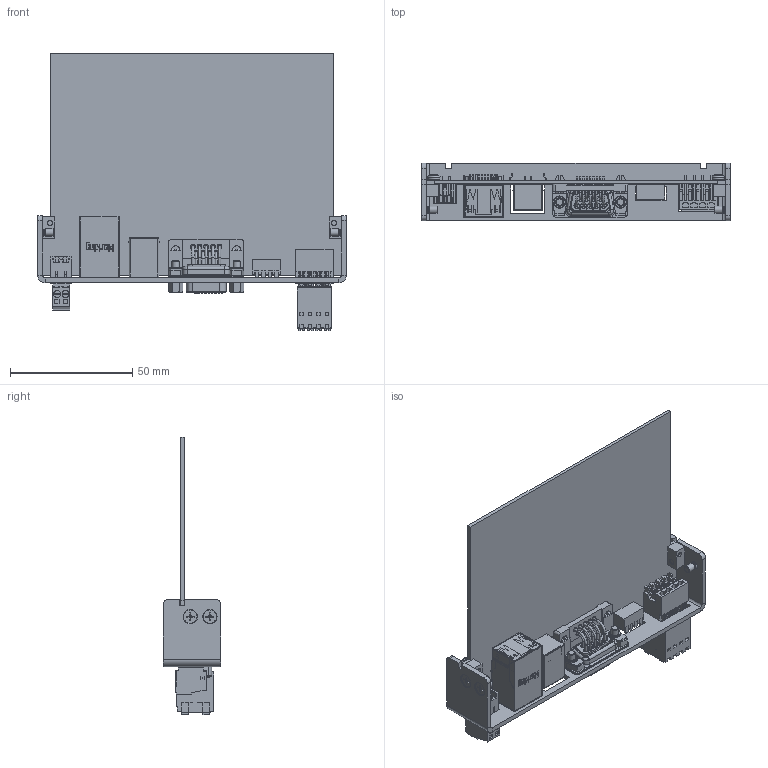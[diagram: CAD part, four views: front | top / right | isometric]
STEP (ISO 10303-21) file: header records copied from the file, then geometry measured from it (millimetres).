
FILE_DESCRIPTION(/* description */ ('Analog I_O','CAx-IF Rec.Pracs.---Representation and Presentation of Product Manufacturing Information (PMI)---4.0---2014-10-13'),/* implementation_level */ '2;1');
FILE_NAME(/* name */ 'G:\Alle CAD Daten\CAMTEC_2020_Pack and Go\PSU CPS-i3000 - CPS-i2000\Digital I_O.stp',/* time_stamp */ '2020-09-20T22:52:03+02:00',/* author */ ('rryba'),/* organization */ (''),/* preprocessor_version */ 'ST-DEVELOPER v18.1',/* originating_system */ 'Autodesk Inventor 2021',/* authorisation */ '');
FILE_SCHEMA (('AP242_MANAGED_MODEL_BASED_3D_ENGINEERING_MIM_LF { 1 0 10303 442 1 1 4 }'));
Products named in the file (33): Digital I_O; 2051078001; 2051055001; 2530278; Digital PCB; 1597360000; 1605070000; 74990101212_rev1; Insulator_3; Insulator_2; Shielding_2; LED; LED_1; 1277290000; 61400416121_rev1; Insulator; shielding; Pin_2; Pin; DTS09SYC2M64ZM3; N00402_BG; R+B00067_BG; R+B00066_BG; R+B00142_BG; R+B00137_BG; N00573_BG; R+B00306_BG; R+B00104_female_BG; 1727840000; ISO 7045 - M2,5 x 6 - 4.8 - H; DIN 433 - 2,7; DIP Schalter; 2530165
Assembly tree (50 placements, depth 3):
  Digital I_O
    2051078001
    2051055001  x2
    2530278  x4
    Digital PCB
    1597360000
    1605070000
    74990101212_rev1
      Insulator_3
      Insulator_2
      Shielding_2
      LED
      LED_1
    1277290000
    61400416121_rev1
      Insulator
      shielding
      Pin_2  x2
      Pin  x2
    DTS09SYC2M64ZM3
      N00402_BG
      R+B00067_BG  x5
      R+B00066_BG  x4
      R+B00142_BG
      R+B00137_BG
      N00573_BG
      R+B00306_BG  x2
      R+B00104_female_BG  x2
    1727840000
    ISO 7045 - M2,5 x 6 - 4.8 - H  x2
    DIN 433 - 2,7  x2
    DIP Schalter
    2530165  x2
Bounding box: 126.4 x 23.6 x 113.7 mm (x, y, z)
Volume: 35622.7 mm3; surface area: 58535 mm2
Topology: 67 solids, 67 shells, 4870 faces, 13545 edges, 9340 vertices
Faces by surface type: plane 3464, cylinder 1007, cone 195, bspline 103, torus 89, sphere 12
Full cylindrical faces by diameter (mm): 0.242 x2, 0.281 x2, 0.6 x9, 0.9 x18, 1 x9, 1.4 x8, 1.6 x27, 1.7 x9, 1.92 x9, 1.96 x27, 2.013 x2, 2.156 x2, 2.256 x2, 2.3 x9, 2.459 x2, 2.5 x4, 2.693 x4, 2.7 x2, 2.95 x4, 3 x8, 3.2 x4, 3.3 x2, 3.4 x4, 4 x2, 4.06 x4, 4.08 x2, 4.3 x2, 5 x8, 5.5 x4, 5.8 x2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
Entity records: 119943 total; most frequent: CARTESIAN_POINT 26121, ORIENTED_EDGE 18968, DIRECTION 18358, EDGE_CURVE 9484, LINE 7566, VECTOR 7566, VERTEX_POINT 6175, AXIS2_PLACEMENT_3D 5396
